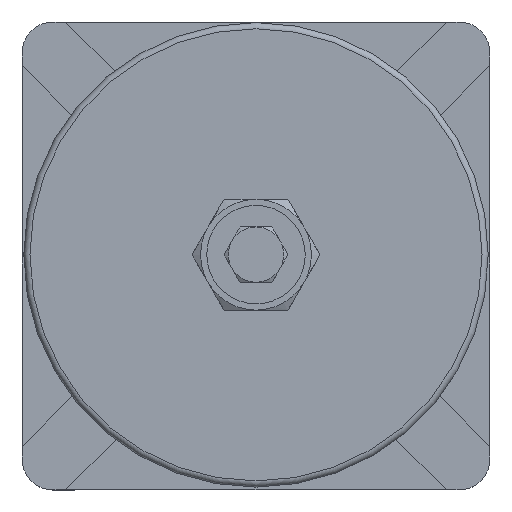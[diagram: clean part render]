
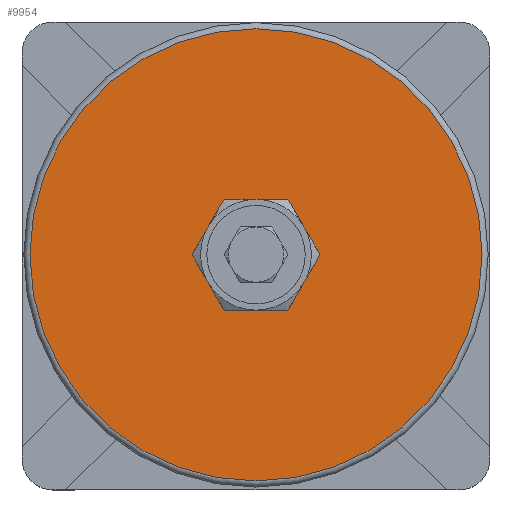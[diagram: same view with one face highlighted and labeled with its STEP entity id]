
A CAD part, top view. The second image highlights one B-rep face of the part: STEP entity #9954.
In plain terms, the highlighted planar face has unit normal (0, 0, 1).
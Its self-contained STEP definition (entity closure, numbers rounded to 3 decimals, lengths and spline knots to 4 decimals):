
#1660=FACE_BOUND('',#2698,.T.);
#1784=CIRCLE('',#10734,4.5898);
#1786=CIRCLE('',#10738,0.6719);
#1964=FACE_OUTER_BOUND('',#2697,.T.);
#2697=EDGE_LOOP('',(#6649));
#2698=EDGE_LOOP('',(#6650));
#3998=VERTEX_POINT('',#12499);
#4000=VERTEX_POINT('',#12505);
#4907=EDGE_CURVE('',#3998,#3998,#1784,.T.);
#4909=EDGE_CURVE('',#4000,#4000,#1786,.T.);
#6649=ORIENTED_EDGE('',*,*,#4907,.F.);
#6650=ORIENTED_EDGE('',*,*,#4909,.F.);
#9072=PLANE('',#10737);
#9954=ADVANCED_FACE('',(#1964,#1660),#9072,.T.);
#10734=AXIS2_PLACEMENT_3D('',#12500,#11443,#11444);
#10737=AXIS2_PLACEMENT_3D('',#12504,#11449,#11450);
#10738=AXIS2_PLACEMENT_3D('',#12506,#11451,#11452);
#11443=DIRECTION('center_axis',(0.,0.,
-1.));
#11444=DIRECTION('ref_axis',(-1.,0.,0.));
#11449=DIRECTION('center_axis',(0.,0.,
1.));
#11450=DIRECTION('ref_axis',(1.,0.,0.));
#11451=DIRECTION('center_axis',(0.,0.,
1.));
#11452=DIRECTION('ref_axis',(1.,0.,0.));
#12499=CARTESIAN_POINT('',(4.5898,0.,13.75));
#12500=CARTESIAN_POINT('Origin',(0.,0.,
13.75));
#12504=CARTESIAN_POINT('Origin',(2.6953,0.,13.75));
#12505=CARTESIAN_POINT('',(0.6719,0.,13.75));
#12506=CARTESIAN_POINT('Origin',(0.,0.,
13.75));
